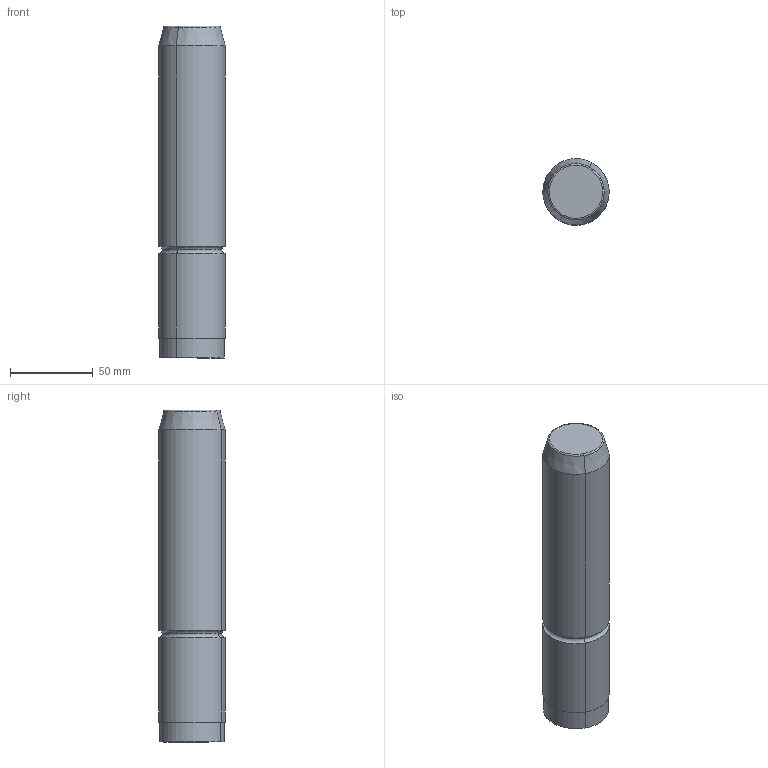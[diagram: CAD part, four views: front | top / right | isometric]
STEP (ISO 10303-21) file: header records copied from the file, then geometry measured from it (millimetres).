
FILE_DESCRIPTION(('CATIA V5 STEP Exchange'),'2;1');
FILE_NAME('C:\Users\Utente\Desktop\IO LAVORO\3D X SITO CF\X SITO\M104\M104-40x200.stp','2020-12-26T21:28:23+00:00',('none'),('none'),'CATIA Version 5 Release 20 GA (IN-10)','CATIA V5 STEP AP203','none');
FILE_SCHEMA(('CONFIG_CONTROL_DESIGN'));
Length unit declared in the file: millimetre
Products named in the file (1): M104-40x200
Bounding box: 39.99 x 39.99 x 200 mm (x, y, z)
Volume: 247444.9 mm3; surface area: 27386.2 mm2
Topology: 1 solids, 1 shells, 17 faces, 32 edges, 18 vertices
Faces by surface type: cylinder 6, torus 6, plane 3, cone 2
Entity records: 438 total; most frequent: CARTESIAN_POINT 66, ORIENTED_EDGE 64, DIRECTION 62, AXIS2_PLACEMENT_3D 40, EDGE_CURVE 32, CIRCLE 24, EDGE_LOOP 18, VERTEX_POINT 18
